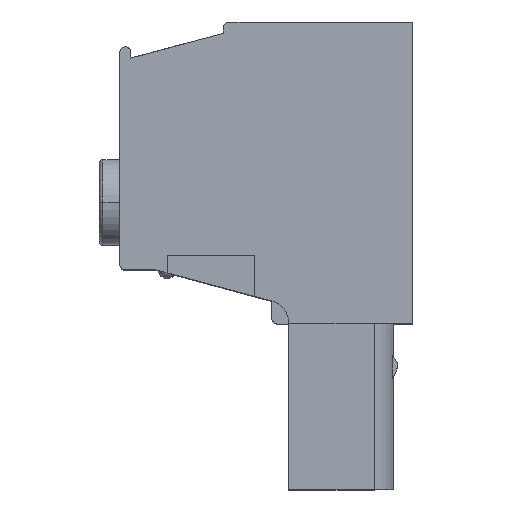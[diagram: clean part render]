
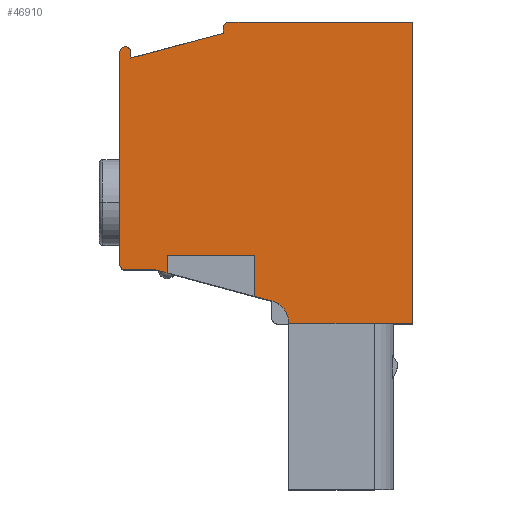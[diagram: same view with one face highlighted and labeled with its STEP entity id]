
A CAD part, top view. The second image highlights one B-rep face of the part: STEP entity #46910.
In plain terms, the highlighted planar face has unit normal (0, 0, 1).
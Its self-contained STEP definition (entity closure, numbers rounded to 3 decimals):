
#3514=DIRECTION('',(0.,-1.,0.));
#3515=VECTOR('',#3514,26.8);
#3516=CARTESIAN_POINT('',(27.8,48.662,-27.308));
#3517=LINE('',#3516,#3515);
#3531=DIRECTION('',(-1.,0.,0.));
#3532=VECTOR('',#3531,11.);
#3533=CARTESIAN_POINT('',(27.8,21.862,-27.308));
#3534=LINE('',#3533,#3532);
#8034=DIRECTION('',(0.,1.,0.));
#8035=VECTOR('',#8034,0.104);
#8036=CARTESIAN_POINT('',(16.8,21.862,-27.308));
#8037=LINE('',#8036,#8035);
#8058=CARTESIAN_POINT('',(14.8,21.965,-27.308));
#8059=DIRECTION('',(0.,0.,-1.));
#8060=DIRECTION('',(0.259,0.966,0.));
#8061=AXIS2_PLACEMENT_3D('',#8058,#8059,#8060);
#8063=DIRECTION('',(0.966,-0.259,0.));
#8064=VECTOR('',#8063,1.571);
#8065=CARTESIAN_POINT('',(13.8,24.304,-27.308));
#8066=LINE('',#8065,#8064);
#8067=DIRECTION('',(0.966,-0.259,0.));
#8068=VECTOR('',#8067,1.035);
#8069=CARTESIAN_POINT('',(5.,26.662,-27.308));
#8070=LINE('',#8069,#8068);
#8071=DIRECTION('',(1.,0.,0.));
#8072=VECTOR('',#8071,2.7);
#8073=CARTESIAN_POINT('',(2.3,26.662,-27.308));
#8074=LINE('',#8073,#8072);
#8075=CARTESIAN_POINT('',(2.3,27.162,-27.308));
#8076=DIRECTION('',(0.,0.,1.));
#8077=DIRECTION('',(-1.,0.,0.));
#8078=AXIS2_PLACEMENT_3D('',#8075,#8076,#8077);
#8080=DIRECTION('',(0.,-1.,0.));
#8081=VECTOR('',#8080,18.8);
#8082=CARTESIAN_POINT('',(1.8,45.962,-27.308));
#8083=LINE('',#8082,#8081);
#8084=CARTESIAN_POINT('',(2.3,45.962,-27.308));
#8085=DIRECTION('',(0.,0.,1.));
#8086=DIRECTION('',(1.,0.,0.));
#8087=AXIS2_PLACEMENT_3D('',#8084,#8085,#8086);
#8089=DIRECTION('',(-0.966,-0.259,0.));
#8090=VECTOR('',#8089,8.489);
#8091=CARTESIAN_POINT('',(11.,47.662,-27.308));
#8092=LINE('',#8091,#8090);
#8093=CARTESIAN_POINT('',(11.5,48.162,-27.308));
#8094=DIRECTION('',(0.,0.,1.));
#8095=DIRECTION('',(0.,1.,0.));
#8096=AXIS2_PLACEMENT_3D('',#8093,#8094,#8095);
#8098=DIRECTION('',(0.,1.,0.));
#8099=VECTOR('',#8098,3.658);
#8100=CARTESIAN_POINT('',(13.8,24.304,-27.308));
#8101=LINE('',#8100,#8099);
#8110=DIRECTION('',(-1.,0.,0.));
#8111=VECTOR('',#8110,7.8);
#8112=CARTESIAN_POINT('',(13.8,27.962,-27.308));
#8113=LINE('',#8112,#8111);
#8126=DIRECTION('',(0.,-1.,0.));
#8127=VECTOR('',#8126,1.568);
#8128=CARTESIAN_POINT('',(6.,27.962,-27.308));
#8129=LINE('',#8128,#8127);
#8171=DIRECTION('',(0.,-1.,0.));
#8172=VECTOR('',#8171,0.497);
#8173=CARTESIAN_POINT('',(2.8,45.962,-27.308));
#8174=LINE('',#8173,#8172);
#23086=DIRECTION('',(1.,0.,0.));
#23087=VECTOR('',#23086,16.3);
#23088=CARTESIAN_POINT('',(11.5,48.662,-27.308));
#23089=LINE('',#23088,#23087);
#23114=DIRECTION('',(0.,1.,0.));
#23115=VECTOR('',#23114,0.5);
#23116=CARTESIAN_POINT('',(11.,47.662,-27.308));
#23117=LINE('',#23116,#23115);
#33553=CARTESIAN_POINT('',(1.8,45.962,-27.308));
#33554=CARTESIAN_POINT('',(1.8,27.162,-27.308));
#33555=VERTEX_POINT('',#33553);
#33556=VERTEX_POINT('',#33554);
#33582=CARTESIAN_POINT('',(5.,26.662,-27.308));
#33584=VERTEX_POINT('',#33582);
#33585=CARTESIAN_POINT('',(6.,26.394,-27.308));
#33586=VERTEX_POINT('',#33585);
#33591=CARTESIAN_POINT('',(13.8,24.304,-27.308));
#33592=VERTEX_POINT('',#33591);
#33593=CARTESIAN_POINT('',(15.318,23.897,
-27.308));
#33594=VERTEX_POINT('',#33593);
#33619=CARTESIAN_POINT('',(2.3,26.662,-27.308));
#33620=VERTEX_POINT('',#33619);
#33621=CARTESIAN_POINT('',(27.8,21.862,-27.308));
#33622=CARTESIAN_POINT('',(16.8,21.862,-27.308));
#33623=VERTEX_POINT('',#33621);
#33624=VERTEX_POINT('',#33622);
#33625=CARTESIAN_POINT('',(16.8,21.965,-27.308));
#33626=VERTEX_POINT('',#33625);
#33627=CARTESIAN_POINT('',(13.8,27.962,-27.308));
#33628=VERTEX_POINT('',#33627);
#33629=CARTESIAN_POINT('',(6.,27.962,-27.308));
#33630=VERTEX_POINT('',#33629);
#33631=CARTESIAN_POINT('',(2.8,45.962,-27.308));
#33632=VERTEX_POINT('',#33631);
#33633=CARTESIAN_POINT('',(2.8,45.465,-27.308));
#33634=VERTEX_POINT('',#33633);
#33635=CARTESIAN_POINT('',(11.,47.662,-27.308));
#33636=VERTEX_POINT('',#33635);
#33637=CARTESIAN_POINT('',(11.,48.162,-27.308));
#33638=VERTEX_POINT('',#33637);
#33639=CARTESIAN_POINT('',(11.5,48.662,-27.308));
#33640=VERTEX_POINT('',#33639);
#33641=CARTESIAN_POINT('',(27.8,48.662,-27.308));
#33642=VERTEX_POINT('',#33641);
#46876=CARTESIAN_POINT('',(0.,48.662,-27.308));
#46877=DIRECTION('',(0.,0.,-1.));
#46878=DIRECTION('',(0.,-1.,0.));
#46879=AXIS2_PLACEMENT_3D('',#46876,#46877,#46878);
#46880=PLANE('',#46879);
#46881=ORIENTED_EDGE('',*,*,#40725,.T.);
#46882=ORIENTED_EDGE('',*,*,#40814,.T.);
#46883=ORIENTED_EDGE('',*,*,#46841,.T.);
#46884=ORIENTED_EDGE('',*,*,#46868,.F.);
#46885=ORIENTED_EDGE('',*,*,#41025,.F.);
#46887=ORIENTED_EDGE('',*,*,#46886,.T.);
#46889=ORIENTED_EDGE('',*,*,#46888,.T.);
#46891=ORIENTED_EDGE('',*,*,#46890,.T.);
#46892=ORIENTED_EDGE('',*,*,#41017,.F.);
#46893=ORIENTED_EDGE('',*,*,#41167,.F.);
#46894=ORIENTED_EDGE('',*,*,#41188,.F.);
#46895=ORIENTED_EDGE('',*,*,#41203,.F.);
#46897=ORIENTED_EDGE('',*,*,#46896,.F.);
#46899=ORIENTED_EDGE('',*,*,#46898,.T.);
#46901=ORIENTED_EDGE('',*,*,#46900,.F.);
#46903=ORIENTED_EDGE('',*,*,#46902,.T.);
#46905=ORIENTED_EDGE('',*,*,#46904,.F.);
#46907=ORIENTED_EDGE('',*,*,#46906,.T.);
#46908=EDGE_LOOP('',(#46881,#46882,#46883,#46884,#46885,#46887,#46889,#46891,
#46892,#46893,#46894,#46895,#46897,#46899,#46901,#46903,#46905,#46907));
#46909=FACE_OUTER_BOUND('',#46908,.F.);
#46910=ADVANCED_FACE('',(#46909),#46880,.F.);
#8062=CIRCLE('',#8061,2.);
#8079=CIRCLE('',#8078,0.5);
#8088=CIRCLE('',#8087,0.5);
#8097=CIRCLE('',#8096,0.5);
#40725=EDGE_CURVE('',#33642,#33623,#3517,.T.);
#40814=EDGE_CURVE('',#33623,#33624,#3534,.T.);
#41017=EDGE_CURVE('',#33584,#33586,#8070,.T.);
#41025=EDGE_CURVE('',#33592,#33594,#8066,.T.);
#41167=EDGE_CURVE('',#33620,#33584,#8074,.T.);
#41188=EDGE_CURVE('',#33556,#33620,#8079,.T.);
#41203=EDGE_CURVE('',#33555,#33556,#8083,.T.);
#46841=EDGE_CURVE('',#33624,#33626,#8037,.T.);
#46868=EDGE_CURVE('',#33594,#33626,#8062,.T.);
#46886=EDGE_CURVE('',#33592,#33628,#8101,.T.);
#46888=EDGE_CURVE('',#33628,#33630,#8113,.T.);
#46890=EDGE_CURVE('',#33630,#33586,#8129,.T.);
#46896=EDGE_CURVE('',#33632,#33555,#8088,.T.);
#46898=EDGE_CURVE('',#33632,#33634,#8174,.T.);
#46900=EDGE_CURVE('',#33636,#33634,#8092,.T.);
#46902=EDGE_CURVE('',#33636,#33638,#23117,.T.);
#46904=EDGE_CURVE('',#33640,#33638,#8097,.T.);
#46906=EDGE_CURVE('',#33640,#33642,#23089,.T.);
